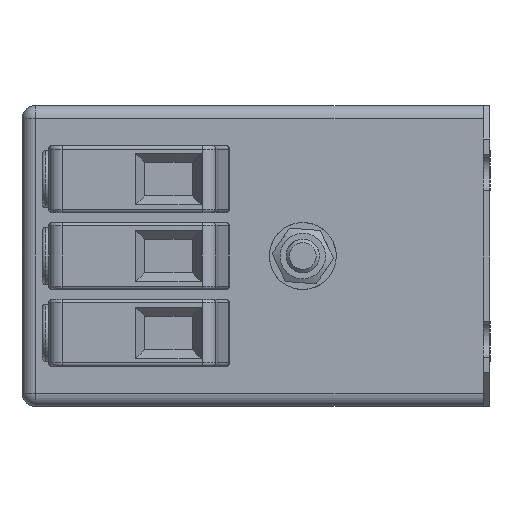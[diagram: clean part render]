
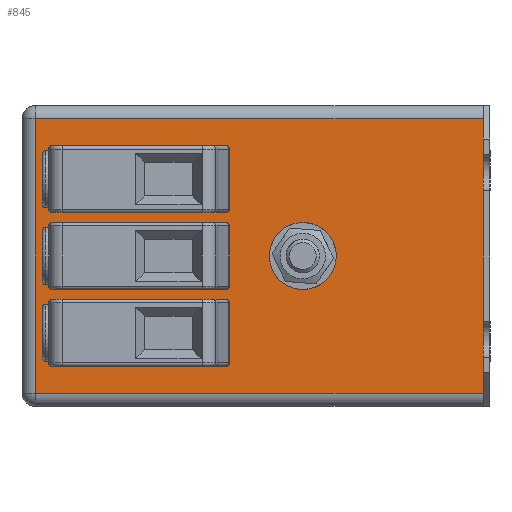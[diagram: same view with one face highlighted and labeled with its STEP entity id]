
A CAD part, left-side view. The second image highlights one B-rep face of the part: STEP entity #845.
In plain terms, the highlighted planar face has unit normal (-1, 0, 0).
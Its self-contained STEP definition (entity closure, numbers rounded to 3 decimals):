
#578=CARTESIAN_POINT('',(-110.0,-7.,-18.25));
#579=VERTEX_POINT('',#578);
#580=CARTESIAN_POINT('',(-110.0,-7.,-22.5));
#581=DIRECTION('',(1.0,0.0,0.0));
#582=DIRECTION('',(0.0,0.0,1.0));
#583=AXIS2_PLACEMENT_3D('',#580,#581,#582);
#584=CIRCLE('',#583,4.25);
#585=EDGE_CURVE('',#579,#579,#584,.T.);
#593=CARTESIAN_POINT('',(-110.0,35.0,0.0));
#594=DIRECTION('',(-1.0,0.0,0.0));
#595=DIRECTION('',(0.0,0.0,1.0));
#596=AXIS2_PLACEMENT_3D('',#593,#594,#595);
#597=PLANE('',#596);
#598=CARTESIAN_POINT('',(-110.0,33.0,-2.0));
#599=VERTEX_POINT('',#598);
#600=CARTESIAN_POINT('',(-110.0,-34.0,-2.0));
#601=VERTEX_POINT('',#600);
#602=CARTESIAN_POINT('',(-110.0,33.0,-2.0));
#603=DIRECTION('',(0.0,-1.0,0.0));
#604=VECTOR('',#603,67.0);
#605=LINE('',#602,#604);
#606=EDGE_CURVE('',#599,#601,#605,.T.);
#607=ORIENTED_EDGE('',*,*,#606,.F.);
#608=CARTESIAN_POINT('',(-110.0,33.0,-43.0));
#609=VERTEX_POINT('',#608);
#610=CARTESIAN_POINT('',(-110.0,33.0,-43.0));
#611=DIRECTION('',(0.0,0.0,1.0));
#612=VECTOR('',#611,41.0);
#613=LINE('',#610,#612);
#614=EDGE_CURVE('',#609,#599,#613,.T.);
#615=ORIENTED_EDGE('',*,*,#614,.F.);
#616=CARTESIAN_POINT('',(-110.0,-34.0,-43.0));
#617=VERTEX_POINT('',#616);
#618=CARTESIAN_POINT('',(-110.0,-34.0,-43.0));
#619=DIRECTION('',(0.0,1.0,0.0));
#620=VECTOR('',#619,67.0);
#621=LINE('',#618,#620);
#622=EDGE_CURVE('',#617,#609,#621,.T.);
#623=ORIENTED_EDGE('',*,*,#622,.F.);
#624=CARTESIAN_POINT('',(-110.0,-34.0,-43.0));
#625=DIRECTION('',(0.0,0.0,1.0));
#626=VECTOR('',#625,41.0);
#627=LINE('',#624,#626);
#628=EDGE_CURVE('',#617,#601,#627,.T.);
#629=ORIENTED_EDGE('',*,*,#628,.T.);
#630=EDGE_LOOP('',(#607,#615,#623,#629));
#631=FACE_OUTER_BOUND('',#630,.T.);
#632=CARTESIAN_POINT('',(-110.0,4.5,-6.));
#633=VERTEX_POINT('',#632);
#634=CARTESIAN_POINT('',(-110.0,4.,-6.5));
#635=VERTEX_POINT('',#634);
#636=CARTESIAN_POINT('',(-110.,4.5,-6.5));
#637=DIRECTION('',(1.0,0.,0.));
#638=DIRECTION('',(0.,-0.707,0.707));
#639=AXIS2_PLACEMENT_3D('',#636,#637,#638);
#640=CIRCLE('',#639,0.5);
#641=EDGE_CURVE('',#633,#635,#640,.T.);
#642=ORIENTED_EDGE('',*,*,#641,.T.);
#643=CARTESIAN_POINT('',(-110.0,4.,-15.5));
#644=VERTEX_POINT('',#643);
#645=CARTESIAN_POINT('',(-110.0,4.,-6.5));
#646=DIRECTION('',(0.0,0.0,-1.0));
#647=VECTOR('',#646,9.0);
#648=LINE('',#645,#647);
#649=EDGE_CURVE('',#635,#644,#648,.T.);
#650=ORIENTED_EDGE('',*,*,#649,.T.);
#651=CARTESIAN_POINT('',(-110.0,4.5,-16.0));
#652=VERTEX_POINT('',#651);
#653=CARTESIAN_POINT('',(-110.,4.5,-15.5));
#654=DIRECTION('',(1.0,0.,0.));
#655=DIRECTION('',(0.,-0.707,-0.707));
#656=AXIS2_PLACEMENT_3D('',#653,#654,#655);
#657=CIRCLE('',#656,0.5);
#658=EDGE_CURVE('',#644,#652,#657,.T.);
#659=ORIENTED_EDGE('',*,*,#658,.T.);
#660=CARTESIAN_POINT('',(-110.0,30.5,-16.0));
#661=VERTEX_POINT('',#660);
#662=CARTESIAN_POINT('',(-110.0,4.5,-16.0));
#663=DIRECTION('',(0.0,1.0,0.0));
#664=VECTOR('',#663,26.);
#665=LINE('',#662,#664);
#666=EDGE_CURVE('',#652,#661,#665,.T.);
#667=ORIENTED_EDGE('',*,*,#666,.T.);
#668=CARTESIAN_POINT('',(-110.0,31.,-15.5));
#669=VERTEX_POINT('',#668);
#670=CARTESIAN_POINT('',(-110.0,30.5,-15.5));
#671=DIRECTION('',(1.0,0.,0.));
#672=DIRECTION('',(0.,0.707,-0.707));
#673=AXIS2_PLACEMENT_3D('',#670,#671,#672);
#674=CIRCLE('',#673,0.5);
#675=EDGE_CURVE('',#661,#669,#674,.T.);
#676=ORIENTED_EDGE('',*,*,#675,.T.);
#677=CARTESIAN_POINT('',(-110.0,31.,-6.5));
#678=VERTEX_POINT('',#677);
#679=CARTESIAN_POINT('',(-110.0,31.,-15.5));
#680=DIRECTION('',(0.0,0.0,1.0));
#681=VECTOR('',#680,9.0);
#682=LINE('',#679,#681);
#683=EDGE_CURVE('',#669,#678,#682,.T.);
#684=ORIENTED_EDGE('',*,*,#683,.T.);
#685=CARTESIAN_POINT('',(-110.0,30.5,-6.));
#686=VERTEX_POINT('',#685);
#687=CARTESIAN_POINT('',(-110.0,30.5,-6.5));
#688=DIRECTION('',(1.0,0.,0.));
#689=DIRECTION('',(0.,0.707,0.707));
#690=AXIS2_PLACEMENT_3D('',#687,#688,#689);
#691=CIRCLE('',#690,0.5);
#692=EDGE_CURVE('',#678,#686,#691,.T.);
#693=ORIENTED_EDGE('',*,*,#692,.T.);
#694=CARTESIAN_POINT('',(-110.0,30.5,-6.));
#695=DIRECTION('',(0.0,-1.0,0.0));
#696=VECTOR('',#695,26.);
#697=LINE('',#694,#696);
#698=EDGE_CURVE('',#686,#633,#697,.T.);
#699=ORIENTED_EDGE('',*,*,#698,.T.);
#700=EDGE_LOOP('',(#642,#650,#659,#667,#676,#684,#693,#699));
#701=FACE_BOUND('',#700,.T.);
#702=CARTESIAN_POINT('',(-110.0,4.5,-17.5));
#703=VERTEX_POINT('',#702);
#704=CARTESIAN_POINT('',(-110.0,4.,-18.0));
#705=VERTEX_POINT('',#704);
#706=CARTESIAN_POINT('',(-110.,4.5,-18.0));
#707=DIRECTION('',(1.0,0.,0.));
#708=DIRECTION('',(0.,-0.707,0.707));
#709=AXIS2_PLACEMENT_3D('',#706,#707,#708);
#710=CIRCLE('',#709,0.5);
#711=EDGE_CURVE('',#703,#705,#710,.T.);
#712=ORIENTED_EDGE('',*,*,#711,.T.);
#713=CARTESIAN_POINT('',(-110.0,4.,-27.0));
#714=VERTEX_POINT('',#713);
#715=CARTESIAN_POINT('',(-110.0,4.,-18.0));
#716=DIRECTION('',(0.0,0.0,-1.0));
#717=VECTOR('',#716,9.0);
#718=LINE('',#715,#717);
#719=EDGE_CURVE('',#705,#714,#718,.T.);
#720=ORIENTED_EDGE('',*,*,#719,.T.);
#721=CARTESIAN_POINT('',(-110.0,4.5,-27.5));
#722=VERTEX_POINT('',#721);
#723=CARTESIAN_POINT('',(-110.,4.5,-27.0));
#724=DIRECTION('',(1.0,0.,0.));
#725=DIRECTION('',(0.,-0.707,-0.707));
#726=AXIS2_PLACEMENT_3D('',#723,#724,#725);
#727=CIRCLE('',#726,0.5);
#728=EDGE_CURVE('',#714,#722,#727,.T.);
#729=ORIENTED_EDGE('',*,*,#728,.T.);
#730=CARTESIAN_POINT('',(-110.0,30.5,-27.5));
#731=VERTEX_POINT('',#730);
#732=CARTESIAN_POINT('',(-110.0,4.5,-27.5));
#733=DIRECTION('',(0.0,1.0,0.0));
#734=VECTOR('',#733,26.);
#735=LINE('',#732,#734);
#736=EDGE_CURVE('',#722,#731,#735,.T.);
#737=ORIENTED_EDGE('',*,*,#736,.T.);
#738=CARTESIAN_POINT('',(-110.0,31.,-27.0));
#739=VERTEX_POINT('',#738);
#740=CARTESIAN_POINT('',(-110.0,30.5,-27.0));
#741=DIRECTION('',(1.0,0.,0.));
#742=DIRECTION('',(0.,0.707,-0.707));
#743=AXIS2_PLACEMENT_3D('',#740,#741,#742);
#744=CIRCLE('',#743,0.5);
#745=EDGE_CURVE('',#731,#739,#744,.T.);
#746=ORIENTED_EDGE('',*,*,#745,.T.);
#747=CARTESIAN_POINT('',(-110.0,31.,-18.0));
#748=VERTEX_POINT('',#747);
#749=CARTESIAN_POINT('',(-110.0,31.,-27.0));
#750=DIRECTION('',(0.0,0.0,1.0));
#751=VECTOR('',#750,9.0);
#752=LINE('',#749,#751);
#753=EDGE_CURVE('',#739,#748,#752,.T.);
#754=ORIENTED_EDGE('',*,*,#753,.T.);
#755=CARTESIAN_POINT('',(-110.0,30.5,-17.5));
#756=VERTEX_POINT('',#755);
#757=CARTESIAN_POINT('',(-110.0,30.5,-18.0));
#758=DIRECTION('',(1.0,0.,0.));
#759=DIRECTION('',(0.,0.707,0.707));
#760=AXIS2_PLACEMENT_3D('',#757,#758,#759);
#761=CIRCLE('',#760,0.5);
#762=EDGE_CURVE('',#748,#756,#761,.T.);
#763=ORIENTED_EDGE('',*,*,#762,.T.);
#764=CARTESIAN_POINT('',(-110.0,30.5,-17.5));
#765=DIRECTION('',(0.0,-1.0,0.0));
#766=VECTOR('',#765,26.);
#767=LINE('',#764,#766);
#768=EDGE_CURVE('',#756,#703,#767,.T.);
#769=ORIENTED_EDGE('',*,*,#768,.T.);
#770=EDGE_LOOP('',(#712,#720,#729,#737,#746,#754,#763,#769));
#771=FACE_BOUND('',#770,.T.);
#772=CARTESIAN_POINT('',(-110.0,4.5,-29.));
#773=VERTEX_POINT('',#772);
#774=CARTESIAN_POINT('',(-110.0,4.,-29.5));
#775=VERTEX_POINT('',#774);
#776=CARTESIAN_POINT('',(-110.,4.5,-29.5));
#777=DIRECTION('',(1.0,0.,0.));
#778=DIRECTION('',(0.,-0.707,0.707));
#779=AXIS2_PLACEMENT_3D('',#776,#777,#778);
#780=CIRCLE('',#779,0.5);
#781=EDGE_CURVE('',#773,#775,#780,.T.);
#782=ORIENTED_EDGE('',*,*,#781,.T.);
#783=CARTESIAN_POINT('',(-110.0,4.,-38.5));
#784=VERTEX_POINT('',#783);
#785=CARTESIAN_POINT('',(-110.0,4.,-29.5));
#786=DIRECTION('',(0.0,0.0,-1.0));
#787=VECTOR('',#786,9.0);
#788=LINE('',#785,#787);
#789=EDGE_CURVE('',#775,#784,#788,.T.);
#790=ORIENTED_EDGE('',*,*,#789,.T.);
#791=CARTESIAN_POINT('',(-110.0,4.5,-39.0));
#792=VERTEX_POINT('',#791);
#793=CARTESIAN_POINT('',(-110.,4.5,-38.5));
#794=DIRECTION('',(1.0,0.,0.));
#795=DIRECTION('',(0.,-0.707,-0.707));
#796=AXIS2_PLACEMENT_3D('',#793,#794,#795);
#797=CIRCLE('',#796,0.5);
#798=EDGE_CURVE('',#784,#792,#797,.T.);
#799=ORIENTED_EDGE('',*,*,#798,.T.);
#800=CARTESIAN_POINT('',(-110.0,30.5,-39.0));
#801=VERTEX_POINT('',#800);
#802=CARTESIAN_POINT('',(-110.0,4.5,-39.0));
#803=DIRECTION('',(0.0,1.0,0.0));
#804=VECTOR('',#803,26.);
#805=LINE('',#802,#804);
#806=EDGE_CURVE('',#792,#801,#805,.T.);
#807=ORIENTED_EDGE('',*,*,#806,.T.);
#808=CARTESIAN_POINT('',(-110.0,31.,-38.5));
#809=VERTEX_POINT('',#808);
#810=CARTESIAN_POINT('',(-110.0,30.5,-38.5));
#811=DIRECTION('',(1.0,0.,0.));
#812=DIRECTION('',(0.,0.707,-0.707));
#813=AXIS2_PLACEMENT_3D('',#810,#811,#812);
#814=CIRCLE('',#813,0.5);
#815=EDGE_CURVE('',#801,#809,#814,.T.);
#816=ORIENTED_EDGE('',*,*,#815,.T.);
#817=CARTESIAN_POINT('',(-110.0,31.,-29.5));
#818=VERTEX_POINT('',#817);
#819=CARTESIAN_POINT('',(-110.0,31.,-38.5));
#820=DIRECTION('',(0.0,0.0,1.0));
#821=VECTOR('',#820,9.0);
#822=LINE('',#819,#821);
#823=EDGE_CURVE('',#809,#818,#822,.T.);
#824=ORIENTED_EDGE('',*,*,#823,.T.);
#825=CARTESIAN_POINT('',(-110.0,30.5,-29.));
#826=VERTEX_POINT('',#825);
#827=CARTESIAN_POINT('',(-110.0,30.5,-29.5));
#828=DIRECTION('',(1.0,0.,0.));
#829=DIRECTION('',(0.,0.707,0.707));
#830=AXIS2_PLACEMENT_3D('',#827,#828,#829);
#831=CIRCLE('',#830,0.5);
#832=EDGE_CURVE('',#818,#826,#831,.T.);
#833=ORIENTED_EDGE('',*,*,#832,.T.);
#834=CARTESIAN_POINT('',(-110.0,30.5,-29.));
#835=DIRECTION('',(0.0,-1.0,0.0));
#836=VECTOR('',#835,26.);
#837=LINE('',#834,#836);
#838=EDGE_CURVE('',#826,#773,#837,.T.);
#839=ORIENTED_EDGE('',*,*,#838,.T.);
#840=EDGE_LOOP('',(#782,#790,#799,#807,#816,#824,#833,#839));
#841=FACE_BOUND('',#840,.T.);
#842=ORIENTED_EDGE('',*,*,#585,.T.);
#843=EDGE_LOOP('',(#842));
#844=FACE_BOUND('',#843,.T.);
#845=ADVANCED_FACE('',(#631,#701,#771,#841,#844),#597,.T.);
